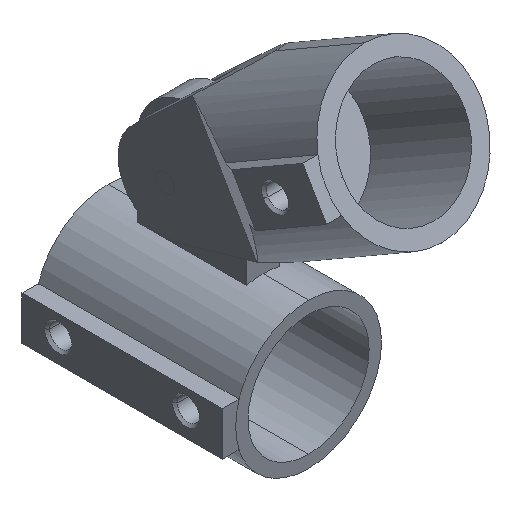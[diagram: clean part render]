
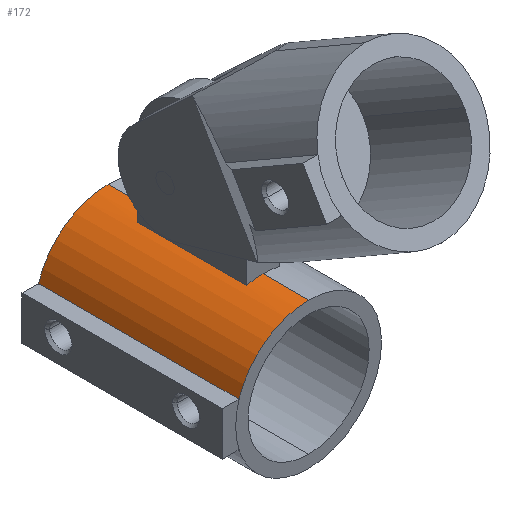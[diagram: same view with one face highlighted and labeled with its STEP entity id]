
A CAD part, isometric view. The second image highlights one B-rep face of the part: STEP entity #172.
In plain terms, the highlighted cylindrical face has radius 25.4 mm (diameter 50.8 mm), a partial arc.
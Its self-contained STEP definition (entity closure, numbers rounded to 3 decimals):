
#172=ADVANCED_FACE('',(#250),#820,.T.);
#250=FACE_OUTER_BOUND('',#330,.F.);
#330=EDGE_LOOP('',(#428,#429,#430,#431,#432,#433,#434,#435));
#428=ORIENTED_EDGE('',*,*,#1471,.T.);
#429=ORIENTED_EDGE('',*,*,#1467,.T.);
#430=ORIENTED_EDGE('',*,*,#1455,.F.);
#431=ORIENTED_EDGE('',*,*,#1456,.T.);
#432=ORIENTED_EDGE('',*,*,#1457,.F.);
#433=ORIENTED_EDGE('',*,*,#1451,.T.);
#434=ORIENTED_EDGE('',*,*,#1463,.T.);
#435=ORIENTED_EDGE('',*,*,#1461,.F.);
#820=CYLINDRICAL_SURFACE('',#2041,25.4);
#1389=CIRCLE('',#1989,25.4);
#1390=CIRCLE('',#1990,25.4);
#1392=CIRCLE('',#1992,25.4);
#1396=CIRCLE('',#1996,25.4);
#1451=EDGE_CURVE('',#1960,#1959,#1652,.T.);
#1455=EDGE_CURVE('',#1955,#1956,#1389,.T.);
#1456=EDGE_CURVE('',#1955,#1954,#1654,.T.);
#1457=EDGE_CURVE('',#1960,#1954,#1390,.T.);
#1461=EDGE_CURVE('',#1949,#1948,#1656,.T.);
#1463=EDGE_CURVE('',#1959,#1948,#1392,.T.);
#1467=EDGE_CURVE('',#1941,#1956,#1660,.T.);
#1471=EDGE_CURVE('',#1949,#1941,#1396,.T.);
#1652=LINE('',#2634,#1755);
#1654=LINE('',#2639,#1757);
#1656=LINE('',#2672,#1759);
#1660=LINE('',#2678,#1763);
#1755=VECTOR('',#2135,15.875);
#1757=VECTOR('',#2143,38.1);
#1759=VECTOR('',#2147,69.85);
#1763=VECTOR('',#2155,15.875);
#1941=VERTEX_POINT('',#2614);
#1948=VERTEX_POINT('',#2621);
#1949=VERTEX_POINT('',#2622);
#1954=VERTEX_POINT('',#2627);
#1955=VERTEX_POINT('',#2628);
#1956=VERTEX_POINT('',#2629);
#1959=VERTEX_POINT('',#2632);
#1960=VERTEX_POINT('',#2633);
#1989=AXIS2_PLACEMENT_3D('',#2638,#2141,#2142);
#1990=AXIS2_PLACEMENT_3D('',#2640,#2144,#2145);
#1992=AXIS2_PLACEMENT_3D('',#2674,#2150,#2151);
#1996=AXIS2_PLACEMENT_3D('',#2682,#2162,#2163);
#2041=AXIS2_PLACEMENT_3D('',#3081,#2326,#2327);
#2135=DIRECTION('',(0.,-1.,0.));
#2141=DIRECTION('',(0.,1.,0.));
#2142=DIRECTION('',(-0.225,0.,0.974));
#2143=DIRECTION('',(0.,-1.,0.));
#2144=DIRECTION('',(0.,-1.,0.));
#2145=DIRECTION('',(0.,0.,1.));
#2147=DIRECTION('',(0.,-1.,0.));
#2150=DIRECTION('',(0.,-1.,0.));
#2151=DIRECTION('',(0.,0.,1.));
#2155=DIRECTION('',(0.,-1.,0.));
#2162=DIRECTION('',(0.,1.,0.));
#2163=DIRECTION('',(-0.954,0.,0.3));
#2326=DIRECTION('',(0.,-1.,0.));
#2327=DIRECTION('',(0.,0.,1.));
#2614=CARTESIAN_POINT('',(1027.375,1254.384,-822.726));
#2621=CARTESIAN_POINT('',(1003.145,1184.534,-840.506));
#2622=CARTESIAN_POINT('',(1003.145,1254.384,-840.506));
#2627=CARTESIAN_POINT('',(1021.66,1200.409,-823.378));
#2628=CARTESIAN_POINT('',(1021.66,1238.509,-823.378));
#2629=CARTESIAN_POINT('',(1027.375,1238.509,-822.726));
#2632=CARTESIAN_POINT('',(1027.375,1184.534,-822.726));
#2633=CARTESIAN_POINT('',(1027.375,1200.409,-822.726));
#2634=CARTESIAN_POINT('',(1027.375,1200.409,-822.726));
#2638=CARTESIAN_POINT('',(1027.375,1238.509,-848.126));
#2639=CARTESIAN_POINT('',(1021.66,1238.509,-823.378));
#2640=CARTESIAN_POINT('',(1027.375,1200.409,-848.126));
#2672=CARTESIAN_POINT('',(1003.145,1254.384,-840.506));
#2674=CARTESIAN_POINT('',(1027.375,1184.534,-848.126));
#2678=CARTESIAN_POINT('',(1027.375,1254.384,-822.726));
#2682=CARTESIAN_POINT('',(1027.375,1254.384,-848.126));
#3081=CARTESIAN_POINT('',(1027.375,1254.384,-848.126));
